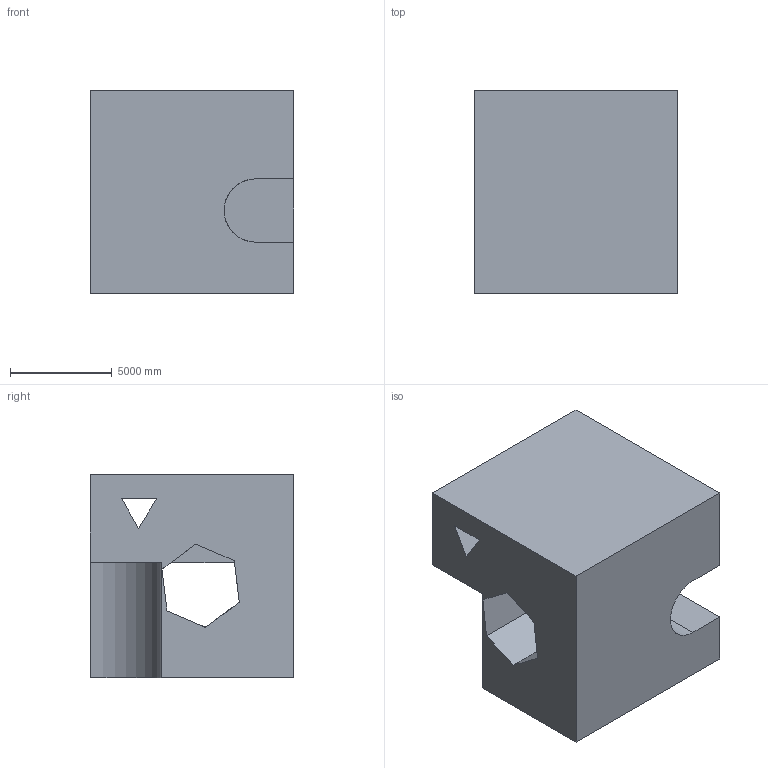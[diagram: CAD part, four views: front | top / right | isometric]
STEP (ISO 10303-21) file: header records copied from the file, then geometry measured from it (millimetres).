
FILE_DESCRIPTION (( 'STEP AP203' ), '1' );
FILE_NAME ('32.STEP', '2022-09-02T13:45:09', ( 'user' ), ( '' ), 'SwSTEP 2.0', 'SolidWorks 2021', '' );
FILE_SCHEMA (( 'CONFIG_CONTROL_DESIGN' ));
Length unit declared in the file: centimetre
Products named in the file (1): 32
Bounding box: 10000 x 10000 x 10000 mm (x, y, z)
Volume: 766399939228.6 mm3; surface area: 759001333.6 mm2
Topology: 1 solids, 1 shells, 24 faces, 69 edges, 46 vertices
Faces by surface type: plane 21, cylinder 3
Entity records: 862 total; most frequent: CARTESIAN_POINT 155, ORIENTED_EDGE 138, DIRECTION 118, EDGE_CURVE 69, LINE 60, VECTOR 60, VERTEX_POINT 46, AXIS2_PLACEMENT_3D 29
